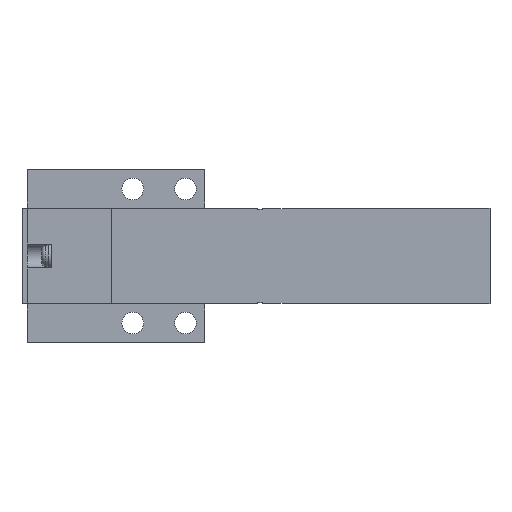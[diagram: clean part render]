
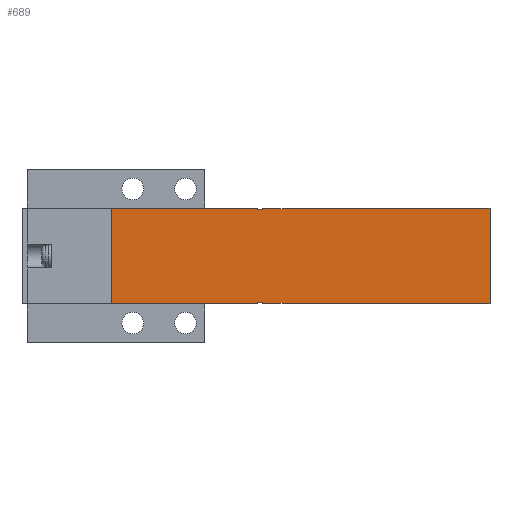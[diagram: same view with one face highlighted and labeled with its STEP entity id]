
A CAD part, front view. The second image highlights one B-rep face of the part: STEP entity #689.
In plain terms, the highlighted planar face has unit normal (0, -1, 0).
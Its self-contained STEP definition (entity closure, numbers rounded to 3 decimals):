
#689=ADVANCED_FACE('',(#1535),#1536,.F.);
#1535=FACE_OUTER_BOUND('',#2490,.T.);
#1536=PLANE('',#2491);
#2490=EDGE_LOOP('',(#5622,#5623,#5624,#5625,#5626,#5627,#5628,#5629,#5630,#5631,#5632,#5633,#5634,#5635,#5636,#5637,#5638,#5639,#5640,#5641,#5642,#5643,#5644,#5645));
#2491=AXIS2_PLACEMENT_3D('',#5646,#5647,#5648);
#5622=ORIENTED_EDGE('',*,*,#7022,.F.);
#5623=ORIENTED_EDGE('',*,*,#7012,.T.);
#5624=ORIENTED_EDGE('',*,*,#7074,.T.);
#5625=ORIENTED_EDGE('',*,*,#6900,.F.);
#5626=ORIENTED_EDGE('',*,*,#7136,.F.);
#5627=ORIENTED_EDGE('',*,*,#7160,.T.);
#5628=ORIENTED_EDGE('',*,*,#7161,.F.);
#5629=ORIENTED_EDGE('',*,*,#7149,.T.);
#5630=ORIENTED_EDGE('',*,*,#6993,.F.);
#5631=ORIENTED_EDGE('',*,*,#6915,.T.);
#5632=ORIENTED_EDGE('',*,*,#7162,.T.);
#5633=ORIENTED_EDGE('',*,*,#7163,.T.);
#5634=ORIENTED_EDGE('',*,*,#7164,.T.);
#5635=ORIENTED_EDGE('',*,*,#6947,.F.);
#5636=ORIENTED_EDGE('',*,*,#7129,.T.);
#5637=ORIENTED_EDGE('',*,*,#6904,.F.);
#5638=ORIENTED_EDGE('',*,*,#7084,.T.);
#5639=ORIENTED_EDGE('',*,*,#7008,.T.);
#5640=ORIENTED_EDGE('',*,*,#7079,.T.);
#5641=ORIENTED_EDGE('',*,*,#7138,.T.);
#5642=ORIENTED_EDGE('',*,*,#7157,.T.);
#5643=ORIENTED_EDGE('',*,*,#7165,.F.);
#5644=ORIENTED_EDGE('',*,*,#7166,.F.);
#5645=ORIENTED_EDGE('',*,*,#7114,.F.);
#5646=CARTESIAN_POINT('',(18.6,0.0,10.0));
#5647=DIRECTION('',(-0.0,1.0,0.0));
#5648=DIRECTION('',(1.0,0.0,0.0));
#6900=EDGE_CURVE('',#8503,#8504,#8505,.T.);
#6904=EDGE_CURVE('',#8510,#8512,#8513,.T.);
#6915=EDGE_CURVE('',#8534,#8532,#8535,.T.);
#6947=EDGE_CURVE('',#8594,#8596,#8597,.T.);
#6993=EDGE_CURVE('',#8534,#8681,#8682,.T.);
#7008=EDGE_CURVE('',#8707,#8705,#8708,.T.);
#7012=EDGE_CURVE('',#8700,#8713,#8715,.T.);
#7022=EDGE_CURVE('',#8700,#8730,#8731,.T.);
#7074=EDGE_CURVE('',#8713,#8504,#8814,.T.);
#7079=EDGE_CURVE('',#8705,#8823,#8824,.T.);
#7084=EDGE_CURVE('',#8510,#8707,#8830,.T.);
#7114=EDGE_CURVE('',#8730,#8873,#8874,.T.);
#7129=EDGE_CURVE('',#8594,#8512,#8894,.T.);
#7136=EDGE_CURVE('',#8900,#8503,#8902,.T.);
#7138=EDGE_CURVE('',#8823,#8903,#8905,.T.);
#7149=EDGE_CURVE('',#8920,#8681,#8921,.T.);
#7157=EDGE_CURVE('',#8903,#8930,#8932,.T.);
#7160=EDGE_CURVE('',#8900,#8937,#8938,.T.);
#7161=EDGE_CURVE('',#8920,#8937,#8939,.T.);
#7162=EDGE_CURVE('',#8532,#8940,#8941,.T.);
#7163=EDGE_CURVE('',#8940,#8942,#8943,.T.);
#7164=EDGE_CURVE('',#8942,#8596,#8944,.T.);
#7165=EDGE_CURVE('',#8945,#8930,#8946,.T.);
#7166=EDGE_CURVE('',#8873,#8945,#8947,.T.);
#8503=VERTEX_POINT('',#11081);
#8504=VERTEX_POINT('',#11082);
#8505=LINE('',#11083,#11084);
#8510=VERTEX_POINT('',#11091);
#8512=VERTEX_POINT('',#11094);
#8513=LINE('',#11095,#11096);
#8532=VERTEX_POINT('',#11123);
#8534=VERTEX_POINT('',#11126);
#8535=LINE('',#11127,#11128);
#8594=VERTEX_POINT('',#11214);
#8596=VERTEX_POINT('',#11217);
#8597=LINE('',#11218,#11219);
#8681=VERTEX_POINT('',#11342);
#8682=LINE('',#11343,#11344);
#8700=VERTEX_POINT('',#11372);
#8705=VERTEX_POINT('',#11379);
#8707=VERTEX_POINT('',#11382);
#8708=LINE('',#11383,#11384);
#8713=VERTEX_POINT('',#11391);
#8715=LINE('',#11394,#11395);
#8730=VERTEX_POINT('',#11417);
#8731=LINE('',#11418,#11419);
#8814=LINE('',#11577,#11578);
#8823=VERTEX_POINT('',#11591);
#8824=LINE('',#11592,#11593);
#8830=LINE('',#11603,#11604);
#8873=VERTEX_POINT('',#11696);
#8874=LINE('',#11697,#11698);
#8894=LINE('',#11732,#11733);
#8900=VERTEX_POINT('',#11744);
#8902=LINE('',#11747,#11748);
#8903=VERTEX_POINT('',#11749);
#8905=LINE('',#11752,#11753);
#8920=VERTEX_POINT('',#11778);
#8921=LINE('',#11779,#11780);
#8930=VERTEX_POINT('',#11795);
#8932=LINE('',#11798,#11799);
#8937=VERTEX_POINT('',#11804);
#8938=LINE('',#11805,#11806);
#8939=LINE('',#11807,#11808);
#8940=VERTEX_POINT('',#11809);
#8941=LINE('',#11810,#11811);
#8942=VERTEX_POINT('',#11812);
#8943=LINE('',#11813,#11814);
#8944=LINE('',#11815,#11816);
#8945=VERTEX_POINT('',#11817);
#8946=LINE('',#11818,#11819);
#8947=LINE('',#11820,#11821);
#11081=CARTESIAN_POINT('',(49.1,0.0,9.9));
#11082=CARTESIAN_POINT('',(49.1,0.0,9.8));
#11083=CARTESIAN_POINT('',(49.1,0.0,10.0));
#11084=VECTOR('',#13013,1.0);
#11091=CARTESIAN_POINT('',(49.1,0.0,-9.8));
#11094=CARTESIAN_POINT('',(49.1,0.0,-9.9));
#11095=CARTESIAN_POINT('',(49.1,0.0,10.0));
#11096=VECTOR('',#13017,1.0);
#11123=CARTESIAN_POINT('',(18.6,0.0,-9.9));
#11126=CARTESIAN_POINT('',(18.6,0.0,9.9));
#11127=CARTESIAN_POINT('',(18.6,0.0,10.0));
#11128=VECTOR('',#13030,1.0);
#11214=CARTESIAN_POINT('',(44.1,0.0,-9.9));
#11217=CARTESIAN_POINT('',(44.1,0.0,-10.0));
#11218=CARTESIAN_POINT('',(44.1,0.0,-9.9));
#11219=VECTOR('',#13068,1.0);
#11342=CARTESIAN_POINT('',(35.1,0.0,9.9));
#11343=CARTESIAN_POINT('',(18.6,0.0,9.9));
#11344=VECTOR('',#13126,1.0);
#11372=CARTESIAN_POINT('',(50.1,0.0,9.9));
#11379=CARTESIAN_POINT('',(50.1,0.0,-9.9));
#11382=CARTESIAN_POINT('',(50.1,0.0,-9.8));
#11383=CARTESIAN_POINT('',(50.1,0.0,10.0));
#11384=VECTOR('',#13143,1.0);
#11391=CARTESIAN_POINT('',(50.1,0.0,9.8));
#11394=CARTESIAN_POINT('',(50.1,0.0,10.0));
#11395=VECTOR('',#13147,1.0);
#11417=CARTESIAN_POINT('',(55.1,0.0,9.9));
#11418=CARTESIAN_POINT('',(44.1,0.0,9.9));
#11419=VECTOR('',#13158,1.0);
#11577=CARTESIAN_POINT('',(18.6,0.0,9.8));
#11578=VECTOR('',#13213,1.0);
#11591=CARTESIAN_POINT('',(55.1,0.0,-9.9));
#11592=CARTESIAN_POINT('',(44.1,0.0,-9.9));
#11593=VECTOR('',#13218,1.0);
#11603=CARTESIAN_POINT('',(18.6,0.0,-9.8));
#11604=VECTOR('',#13223,1.0);
#11696=CARTESIAN_POINT('',(55.1,0.0,10.0));
#11697=CARTESIAN_POINT('',(55.1,0.0,9.9));
#11698=VECTOR('',#13256,1.0);
#11732=CARTESIAN_POINT('',(44.1,0.0,-9.9));
#11733=VECTOR('',#13271,1.0);
#11744=CARTESIAN_POINT('',(44.1,0.0,9.9));
#11747=CARTESIAN_POINT('',(44.1,0.0,9.9));
#11748=VECTOR('',#13278,1.0);
#11749=CARTESIAN_POINT('',(55.1,0.0,-10.0));
#11752=CARTESIAN_POINT('',(55.1,0.0,-9.9));
#11753=VECTOR('',#13280,1.0);
#11778=CARTESIAN_POINT('',(35.1,0.0,10.0));
#11779=CARTESIAN_POINT('',(35.1,0.0,10.1));
#11780=VECTOR('',#13291,1.0);
#11795=CARTESIAN_POINT('',(97.6,0.0,-10.0));
#11798=CARTESIAN_POINT('',(18.6,0.0,-10.0));
#11799=VECTOR('',#13299,1.0);
#11804=CARTESIAN_POINT('',(44.1,0.0,10.0));
#11805=CARTESIAN_POINT('',(44.1,0.0,9.9));
#11806=VECTOR('',#13306,1.0);
#11807=CARTESIAN_POINT('',(18.6,0.0,10.0));
#11808=VECTOR('',#13307,1.0);
#11809=CARTESIAN_POINT('',(35.1,0.0,-9.9));
#11810=CARTESIAN_POINT('',(18.6,0.0,-9.9));
#11811=VECTOR('',#13308,1.0);
#11812=CARTESIAN_POINT('',(35.1,0.0,-10.0));
#11813=CARTESIAN_POINT('',(35.1,0.0,-9.9));
#11814=VECTOR('',#13309,1.0);
#11815=CARTESIAN_POINT('',(18.6,0.0,-10.0));
#11816=VECTOR('',#13310,1.0);
#11817=CARTESIAN_POINT('',(97.6,0.0,10.0));
#11818=CARTESIAN_POINT('',(97.6,0.0,10.0));
#11819=VECTOR('',#13311,1.0);
#11820=CARTESIAN_POINT('',(18.6,0.0,10.0));
#11821=VECTOR('',#13312,1.0);
#13013=DIRECTION('',(0.0,0.0,-1.0));
#13017=DIRECTION('',(0.0,0.0,-1.0));
#13030=DIRECTION('',(0.0,0.0,-1.0));
#13068=DIRECTION('',(0.0,0.0,-1.0));
#13126=DIRECTION('',(1.0,0.0,0.0));
#13143=DIRECTION('',(0.0,0.0,-1.0));
#13147=DIRECTION('',(0.0,0.0,-1.0));
#13158=DIRECTION('',(1.0,0.0,0.0));
#13213=DIRECTION('',(-1.0,0.0,0.0));
#13218=DIRECTION('',(1.0,0.0,0.0));
#13223=DIRECTION('',(1.0,0.0,0.0));
#13256=DIRECTION('',(0.0,0.0,1.0));
#13271=DIRECTION('',(1.0,0.0,0.0));
#13278=DIRECTION('',(1.0,0.0,0.0));
#13280=DIRECTION('',(0.0,0.0,-1.0));
#13291=DIRECTION('',(0.0,0.0,-1.0));
#13299=DIRECTION('',(1.0,0.0,0.0));
#13306=DIRECTION('',(0.0,0.0,1.0));
#13307=DIRECTION('',(1.0,0.0,0.0));
#13308=DIRECTION('',(1.0,0.0,0.0));
#13309=DIRECTION('',(0.0,0.0,-1.0));
#13310=DIRECTION('',(1.0,0.0,0.0));
#13311=DIRECTION('',(0.0,0.0,-1.0));
#13312=DIRECTION('',(1.0,0.0,0.0));
